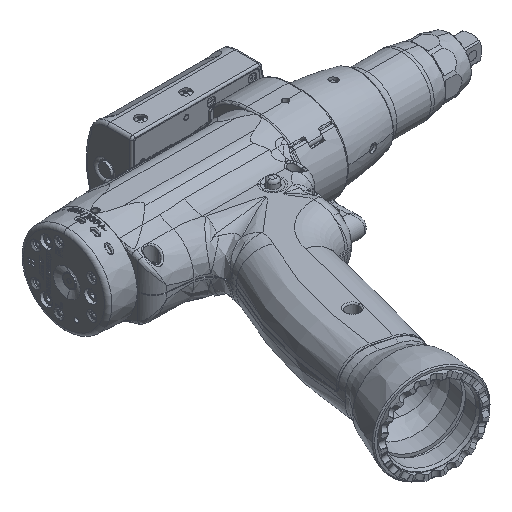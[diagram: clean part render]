
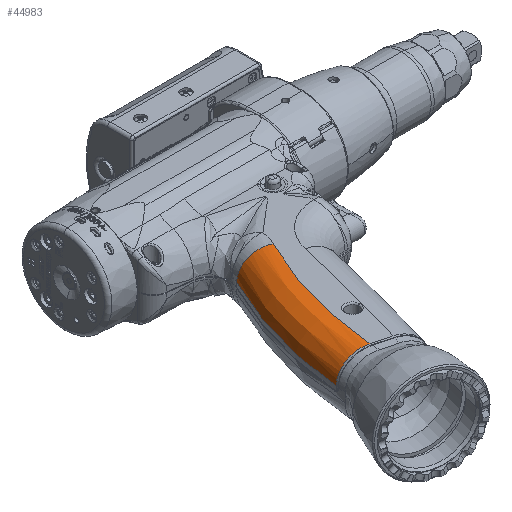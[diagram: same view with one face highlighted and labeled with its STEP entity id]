
A CAD part, isometric view. The second image highlights one B-rep face of the part: STEP entity #44983.
In plain terms, the highlighted free-form (B-spline) face has degree [2, 3] with [3, 4] control points.
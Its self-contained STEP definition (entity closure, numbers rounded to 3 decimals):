
#20921 = VERTEX_POINT ( 'NONE', #82552 ) ;
#21627 = VERTEX_POINT ( 'NONE', #87928 ) ;
#21712 = EDGE_CURVE ( 'NONE', #21627, #20921, #88457, .T. ) ;
#42917 = VERTEX_POINT ( 'NONE', #100065 ) ;
#43508 = ORIENTED_EDGE ( 'NONE', *, *, #49841, .F. ) ;
#43998 = EDGE_LOOP ( 'NONE', ( #43508, #45721, #49539, #49585 ) ) ;
#44983 = ADVANCED_FACE ( 'NONE', ( #100593 ), #100613, .T. ) ;
#45721 = ORIENTED_EDGE ( 'NONE', *, *, #48020, .F. ) ;
#45906 = VERTEX_POINT ( 'NONE', #100986 ) ;
#48020 = EDGE_CURVE ( 'NONE', #20921, #45906, #102228, .T. ) ;
#49503 = EDGE_CURVE ( 'NONE', #42917, #21627, #102970, .T. ) ;
#49539 = ORIENTED_EDGE ( 'NONE', *, *, #21712, .F. ) ;
#49585 = ORIENTED_EDGE ( 'NONE', *, *, #49503, .F. ) ;
#49841 = EDGE_CURVE ( 'NONE', #45906, #42917, #103153, .T. ) ;
#82552 = CARTESIAN_POINT ( 'NONE',  ( -72.79, -53.792, 16.5 ) ) ;
#87928 = CARTESIAN_POINT ( 'NONE',  ( -85.302, -47.51, 2.5 ) ) ;
#88449 = CARTESIAN_POINT ( 'NONE',  ( -72.79, -53.792, 16.5 ) ) ;
#88450 = CARTESIAN_POINT ( 'NONE',  ( -85.302, -47.51, 16.5 ) ) ;
#88452 = CARTESIAN_POINT ( 'NONE',  ( -85.302, -47.51, 2.5 ) ) ;
#88457 =( BOUNDED_CURVE ( )  B_SPLINE_CURVE ( 2, ( #88452, #88450, #88449 ),
 .UNSPECIFIED., .F., .F. ) 
 B_SPLINE_CURVE_WITH_KNOTS ( ( 3, 3 ),
 ( 0., 1. ),
 .UNSPECIFIED. ) 
 CURVE ( )  GEOMETRIC_REPRESENTATION_ITEM ( )  RATIONAL_B_SPLINE_CURVE ( ( 1., 0.707, 1. ) ) 
 REPRESENTATION_ITEM ( '' )  );
#100065 = CARTESIAN_POINT ( 'NONE',  ( -106.144, -119.742, 2.5 ) ) ;
#100593 = FACE_OUTER_BOUND ( 'NONE', #43998, .T. ) ;
#100607 = CARTESIAN_POINT ( 'NONE',  ( -98.439, -73.674, 2.5 ) ) ;
#100608 = CARTESIAN_POINT ( 'NONE',  ( -105.868, -102.611, 2.5 ) ) ;
#100609 = CARTESIAN_POINT ( 'NONE',  ( -106.958, -131.868, 2.5 ) ) ;
#100613 =( BOUNDED_SURFACE ( )  B_SPLINE_SURFACE ( 2, 3, ( 
 ( #100609, #100608, #100607, #100654 ),
 ( #100653, #100652, #100651, #100650 ),
 ( #100649, #100648, #100647, #100646 ) ),
 .UNSPECIFIED., .F., .F., .F. ) 
 B_SPLINE_SURFACE_WITH_KNOTS ( ( 3, 3 ),
 ( 4, 4 ),
 ( 0., 1. ),
 ( 0.037, 0.465 ),
 .UNSPECIFIED. ) 
 GEOMETRIC_REPRESENTATION_ITEM ( )  RATIONAL_B_SPLINE_SURFACE ( (
 ( 1., 1., 1., 1.),
 ( 0.707, 0.707, 0.707, 0.707),
 ( 1., 1., 1., 1.) ) ) 
 REPRESENTATION_ITEM ( '' )  SURFACE ( )  );
#100646 = CARTESIAN_POINT ( 'NONE',  ( -72.79, -53.792, 16.5 ) ) ;
#100647 = CARTESIAN_POINT ( 'NONE',  ( -85.031, -78.17, 16.5 ) ) ;
#100648 = CARTESIAN_POINT ( 'NONE',  ( -91.952, -105.13, 16.5 ) ) ;
#100649 = CARTESIAN_POINT ( 'NONE',  ( -92.968, -132.389, 16.5 ) ) ;
#100650 = CARTESIAN_POINT ( 'NONE',  ( -85.302, -47.51, 16.5 ) ) ;
#100651 = CARTESIAN_POINT ( 'NONE',  ( -98.439, -73.674, 16.5 ) ) ;
#100652 = CARTESIAN_POINT ( 'NONE',  ( -105.868, -102.611, 16.5 ) ) ;
#100653 = CARTESIAN_POINT ( 'NONE',  ( -106.958, -131.868, 16.5 ) ) ;
#100654 = CARTESIAN_POINT ( 'NONE',  ( -85.302, -47.51, 2.5 ) ) ;
#100986 = CARTESIAN_POINT ( 'NONE',  ( -92.42, -123.419, 16.5 ) ) ;
#102224 = CARTESIAN_POINT ( 'NONE',  ( -78.236, -64.638, 16.5 ) ) ;
#102225 = CARTESIAN_POINT ( 'NONE',  ( -72.79, -53.792, 16.5 ) ) ;
#102228 = B_SPLINE_CURVE_WITH_KNOTS ( 'NONE', 3,
 ( #102225, #102224, #102273, #102272, #102271, #102270, #102269, #102268, #102267, #102266 ),
 .UNSPECIFIED., .F., .F.,
 ( 4, 2, 2, 1, 1, 4 ),
 ( 0., 0.467, 0.526, 0.584, 0.701, 0.935 ),
 .UNSPECIFIED. ) ;
#102266 = CARTESIAN_POINT ( 'NONE',  ( -92.42, -123.419, 16.5 ) ) ;
#102267 = CARTESIAN_POINT ( 'NONE',  ( -91.909, -117.38, 16.5 ) ) ;
#102268 = CARTESIAN_POINT ( 'NONE',  ( -90.713, -108.381, 16.5 ) ) ;
#102269 = CARTESIAN_POINT ( 'NONE',  ( -88.565, -97.984, 16.5 ) ) ;
#102270 = CARTESIAN_POINT ( 'NONE',  ( -87.484, -93.551, 16.5 ) ) ;
#102271 = CARTESIAN_POINT ( 'NONE',  ( -86.727, -90.6, 16.5 ) ) ;
#102272 = CARTESIAN_POINT ( 'NONE',  ( -86.33, -89.125, 16.5 ) ) ;
#102273 = CARTESIAN_POINT ( 'NONE',  ( -82.612, -75.927, 16.5 ) ) ;
#102963 = CARTESIAN_POINT ( 'NONE',  ( -85.302, -47.51, 2.5 ) ) ;
#102964 = CARTESIAN_POINT ( 'NONE',  ( -90.956, -58.771, 2.5 ) ) ;
#102965 = CARTESIAN_POINT ( 'NONE',  ( -95.569, -70.555, 2.5 ) ) ;
#102966 = CARTESIAN_POINT ( 'NONE',  ( -102.557, -94.769, 2.5 ) ) ;
#102967 = CARTESIAN_POINT ( 'NONE',  ( -104.931, -107.199, 2.5 ) ) ;
#102968 = CARTESIAN_POINT ( 'NONE',  ( -106.144, -119.742, 2.5 ) ) ;
#102970 = B_SPLINE_CURVE_WITH_KNOTS ( 'NONE', 3,
 ( #102968, #102967, #102966, #102965, #102964, #102963 ),
 .UNSPECIFIED., .F., .F.,
 ( 4, 2, 4 ),
 ( 0.063, 0.531, 1. ),
 .UNSPECIFIED. ) ;
#103138 = CARTESIAN_POINT ( 'NONE',  ( -106.144, -119.742, 2.5 ) ) ;
#103140 = CARTESIAN_POINT ( 'NONE',  ( -106.144, -119.742, 4.346 ) ) ;
#103141 = CARTESIAN_POINT ( 'NONE',  ( -105.419, -119.936, 8.035 ) ) ;
#103142 = CARTESIAN_POINT ( 'NONE',  ( -102.344, -120.76, 12.694 ) ) ;
#103143 = CARTESIAN_POINT ( 'NONE',  ( -97.781, -121.983, 15.781 ) ) ;
#103144 = CARTESIAN_POINT ( 'NONE',  ( -94.209, -122.94, 16.5 ) ) ;
#103145 = CARTESIAN_POINT ( 'NONE',  ( -92.42, -123.419, 16.5 ) ) ;
#103153 = B_SPLINE_CURVE_WITH_KNOTS ( 'NONE', 3,
 ( #103145, #103144, #103143, #103142, #103141, #103140, #103138 ),
 .UNSPECIFIED., .F., .F.,
 ( 4, 1, 1, 1, 4 ),
 ( 0., 0.25, 0.5, 0.75, 1. ),
 .UNSPECIFIED. ) ;
